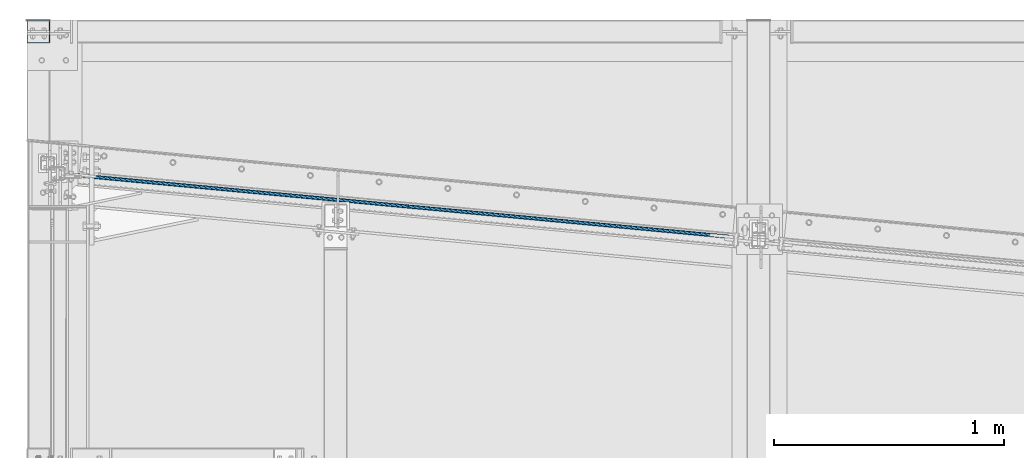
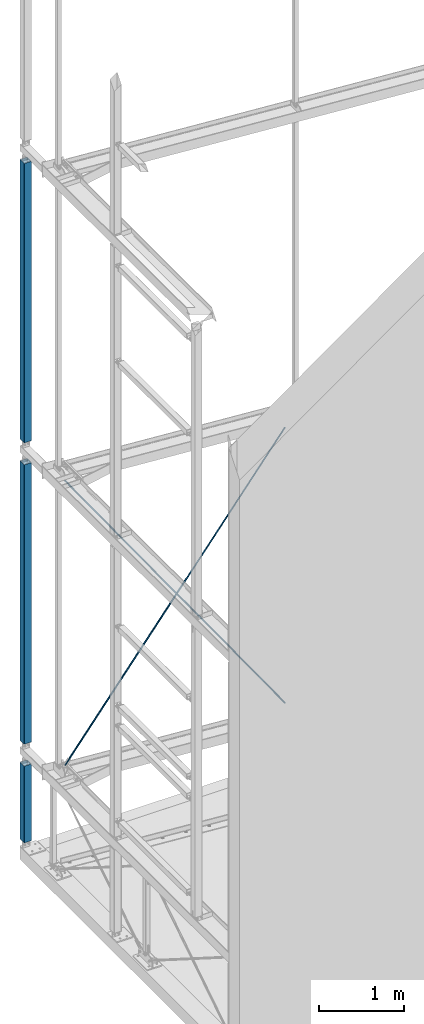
# One storey, part 30 of 271: 3 beams, 2 members, 5 elements without a shape of their own.
"""IFC2X3 building model written with IfcOpenShell, lengths in millimetres."""

from ifc_helpers import new_model, si_unit, frame, origin_with_axes, origin_2d_with_axis, place, context, subcontext, project, spatial, hollow_rectangle, circle, extrude, clip, halfspace, material, type_object, element, aggregate, save


model = new_model("IFC2X3")

# Units and contexts
model_context = context("Model", 3, precision=1e-05, world=origin_with_axes())
body_context = subcontext(model_context, "Body", "Model", "MODEL_VIEW")
ifc_project = project(units=[si_unit("LENGTHUNIT", "METRE", prefix="MILLI"), si_unit("AREAUNIT", "SQUARE_METRE"), si_unit("VOLUMEUNIT", "CUBIC_METRE"), si_unit("MASSUNIT", "GRAM", prefix="KILO"), si_unit("TIMEUNIT", "SECOND"), si_unit("PLANEANGLEUNIT", "RADIAN"), si_unit("SOLIDANGLEUNIT", "STERADIAN"), si_unit("THERMODYNAMICTEMPERATUREUNIT", "DEGREE_CELSIUS"), si_unit("LUMINOUSINTENSITYUNIT", "LUMEN")], contexts=[model_context])

# Site, building, storey
site_placement = place(None, origin_with_axes())
site = spatial("IfcSite", under=ifc_project, at=site_placement, Name="Undefined", CompositionType="ELEMENT")
building_placement = place(site_placement, origin_with_axes())
building = spatial("IfcBuilding", under=site, at=building_placement, Name="Undefined", CompositionType="ELEMENT")
storey_placement = place(building_placement, origin_with_axes())
storey = spatial("IfcBuildingStorey", under=building, at=storey_placement, Name="Undefined", CompositionType="ELEMENT", Elevation=0.0)

# Assembly, beam
assembly_1_placement = place(storey_placement, origin_with_axes())
assembly_1 = element("IfcElementAssembly", 1, at=assembly_1_placement, inside=storey, AssemblyPlace="NOTDEFINED", PredefinedType="RIGID_FRAME")
ifc_material = material(Name="STEEL/S355JR")
beam_type = type_object("IfcBeamType", Name="SHS100*3", PredefinedType="NOTDEFINED")
beam_1_placement = place(assembly_1_placement, frame((38.3756870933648, 4909.32498425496, 1364.34999990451), z_axis=(0.0, 1.0, 0.0), x_axis=(0.0, 0.0, -1.0)))
beam_1 = element("IfcBeam", 2, at=beam_1_placement, type_object=beam_type, material=ifc_material, Name="RYGIEL ATTYKOWY", ObjectType="SHS100*3", context=body_context, shape_type="Clipping", body=[
    clip(clip(extrude(hollow_rectangle(XDim=100.0, YDim=100.0, WallThickness=3.0, InnerFilletRadius=3.0, OuterFilletRadius=6.0, at=origin_2d_with_axis()), frame((1360.0, 0.0, 0.0), z_axis=(-1.0, 0.0, 1.38777878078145e-17), x_axis=(0.0, -1.0, 0.0)), (0.0, 0.0, 1.0), 1360.0), halfspace(frame((1266.0, 0.0, -15.0), z_axis=(-1.0, 0.0, 1.38777878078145e-17), x_axis=(0.0, 1.0, 0.0)), True)), halfspace(frame((168.0, 0.0, -15.0), z_axis=(1.0, 0.0, 0.0), x_axis=(0.0, -1.0, 0.0)), True)),
])
aggregate(assembly_1, [beam_1])

assembly_2_placement = place(storey_placement, origin_with_axes())
assembly_2 = element("IfcElementAssembly", 3, at=assembly_2_placement, inside=storey, AssemblyPlace="NOTDEFINED", PredefinedType="RIGID_FRAME")
beam_2_placement = place(assembly_2_placement, frame((38.3756870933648, 4909.32498425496, 5684.34999990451), z_axis=(0.0, 1.0, 0.0), x_axis=(0.0, 0.0, -1.0)))
beam_2 = element("IfcBeam", 4, at=beam_2_placement, type_object=beam_type, material=ifc_material, Name="RYGIEL ATTYKOWY", ObjectType="SHS100*3", context=body_context, shape_type="Clipping", body=[
    clip(clip(extrude(hollow_rectangle(XDim=100.0, YDim=100.0, WallThickness=3.0, InnerFilletRadius=3.0, OuterFilletRadius=6.0, at=origin_2d_with_axis()), frame((4320.0, 0.0, 9.09494701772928e-13), z_axis=(-1.0, 0.0, 1.38777878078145e-17), x_axis=(0.0, -1.0, 0.0)), (0.0, 0.0, 1.0), 4320.0), halfspace(frame((4172.0, 0.0, -15.0), z_axis=(-1.0, 0.0, 1.38777878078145e-17), x_axis=(0.0, 1.0, 0.0)), True)), halfspace(frame((168.0, 0.0, -15.0), z_axis=(1.0, 0.0, 0.0), x_axis=(0.0, -1.0, 0.0)), True)),
])
aggregate(assembly_2, [beam_2])

assembly_3_placement = place(storey_placement, origin_with_axes())
assembly_3 = element("IfcElementAssembly", 5, at=assembly_3_placement, inside=storey, AssemblyPlace="NOTDEFINED", PredefinedType="RIGID_FRAME")
beam_3_placement = place(assembly_3_placement, frame((38.3756870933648, 4909.32498425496, 10004.3499999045), z_axis=(0.0, 1.0, 0.0), x_axis=(0.0, 0.0, -1.0)))
beam_3 = element("IfcBeam", 6, at=beam_3_placement, type_object=beam_type, material=ifc_material, Name="RYGIEL ATTYKOWY", ObjectType="SHS100*3", context=body_context, shape_type="Clipping", body=[
    clip(clip(extrude(hollow_rectangle(XDim=100.0, YDim=100.0, WallThickness=3.0, InnerFilletRadius=3.0, OuterFilletRadius=6.0, at=origin_2d_with_axis()), frame((4320.0, 0.0, 9.09494701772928e-13), z_axis=(-1.0, 0.0, 1.38777878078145e-17), x_axis=(0.0, -1.0, 0.0)), (0.0, 0.0, 1.0), 4320.0), halfspace(frame((4172.0, 0.0, -15.0), z_axis=(-1.0, 0.0, 1.38777878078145e-17), x_axis=(0.0, 1.0, 0.0)), True)), halfspace(frame((168.0, 0.0, -15.0), z_axis=(1.0, 0.0, 0.0), x_axis=(0.0, -1.0, 0.0)), True)),
])
aggregate(assembly_3, [beam_3])

# Assembly, member
assembly_4_placement = place(storey_placement, origin_with_axes())
assembly_4 = element("IfcElementAssembly", 7, at=assembly_4_placement, inside=storey, AssemblyPlace="NOTDEFINED", PredefinedType="RIGID_FRAME")
member_type = type_object("IfcMemberType", Name="D16", PredefinedType="NOTDEFINED")
member_1_placement = place(assembly_4_placement, frame((122.999999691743, 4292.19355050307, 5684.34999990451), z_axis=(0.0312255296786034, 0.998530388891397, -0.0442947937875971), x_axis=(0.57532667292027, -0.0541946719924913, -0.816126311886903)))
member_1 = element("IfcMember", 8, at=member_1_placement, type_object=member_type, material=ifc_material, Name="STĘŻENIE", ObjectType="D16", context=body_context, shape_type="Clipping", body=[
    clip(clip(extrude(circle(Radius=8.0, at=origin_2d_with_axis()), frame((5293.29827722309, 2.27373675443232e-13, 0.0), z_axis=(-1.0, 0.0, 1.38777878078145e-17), x_axis=(0.0, -1.0, 0.0)), (0.0, 0.0, 1.0), 5293.3), halfspace(frame((5063.33957223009, 1.39579595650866, -18.1289368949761), z_axis=(-1.0, 0.0, 1.38777878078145e-17), x_axis=(2.10691723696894e-10, 0.997049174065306, 0.0767655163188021)), True)), halfspace(frame((149.375514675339, -1.03455022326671e-10, -4.99999939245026), z_axis=(1.0, 0.0, 0.0), x_axis=(0.0, -1.0, 0.0)), True)),
])
aggregate(assembly_4, [member_1])

assembly_5_placement = place(storey_placement, origin_with_axes())
assembly_5 = element("IfcElementAssembly", 9, at=assembly_5_placement, inside=storey, AssemblyPlace="NOTDEFINED", PredefinedType="RIGID_FRAME")
member_2_placement = place(assembly_5_placement, frame((122.999999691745, 4292.19355050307, 1364.34999990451), z_axis=(0.0312255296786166, 0.998530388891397, 0.0442947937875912), x_axis=(0.575326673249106, -0.0541946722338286, 0.816126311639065)))
member_2 = element("IfcMember", 10, at=member_2_placement, type_object=member_type, material=ifc_material, Name="STĘŻENIE", ObjectType="D16", context=body_context, shape_type="Clipping", body=[
    clip(clip(extrude(circle(Radius=8.0, at=origin_2d_with_axis()), frame((5293.29827722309, 2.27373675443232e-13, 0.0), z_axis=(-1.0, 0.0, 1.38777878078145e-17), x_axis=(0.0, -1.0, 0.0)), (0.0, 0.0, 1.0), 5293.3), halfspace(frame((5063.34097846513, -1.39695925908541, -18.1440461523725), z_axis=(-1.0, 0.0, 1.38777878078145e-17), x_axis=(-2.10693542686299e-10, 0.997049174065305, -0.076765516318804)), True)), halfspace(frame((149.375514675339, -1.03455022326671e-10, -4.99999939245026), z_axis=(1.0, 0.0, 0.0), x_axis=(0.0, -1.0, 0.0)), True)),
])
aggregate(assembly_5, [member_2])

save(model, "model.ifc")
